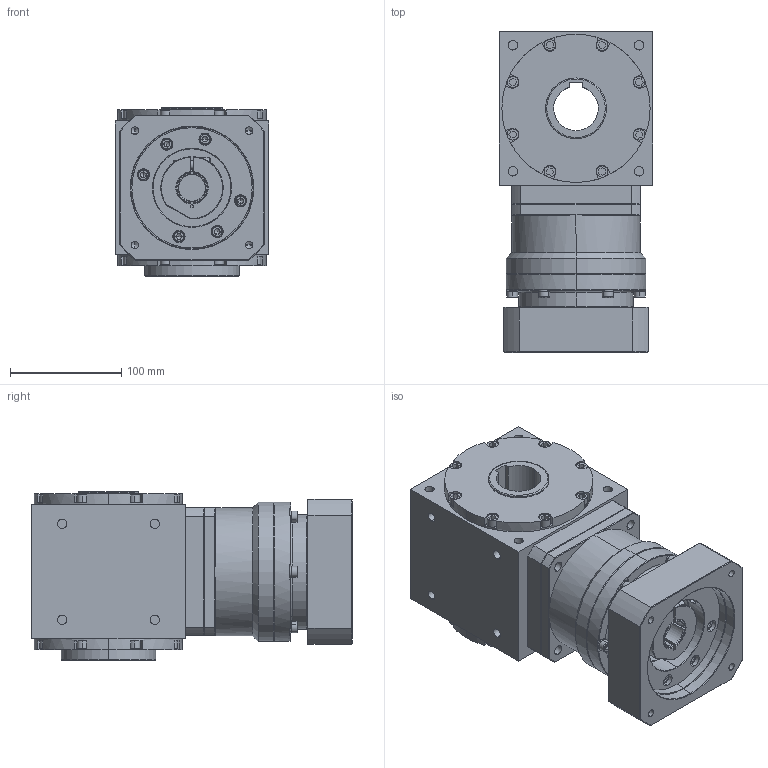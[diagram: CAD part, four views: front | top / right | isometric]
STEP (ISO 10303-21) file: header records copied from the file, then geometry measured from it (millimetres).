
FILE_DESCRIPTION (( 'STEP AP203' ), '1' );
FILE_NAME ('AAW135AS-L1-RFK 24-110-145-M8.STEP', '2024-12-14T08:37:25', ( '' ), ( '' ), 'SwSTEP 2.0', 'SolidWorks 2021', '' );
FILE_SCHEMA (( 'CONFIG_CONTROL_DESIGN' ));
Length unit declared in the file: millimetre
Products named in the file (3): AAW135AS-RFK; AAW135AS-L1-RFK 24-110-145-M8; VRB-115-L1-S2-P1 24-110-145-M8
Assembly tree (2 placements, depth 2):
  AAW135AS-L1-RFK 24-110-145-M8
    AAW135AS-RFK
    VRB-115-L1-S2-P1 24-110-145-M8
Bounding box: 138 x 288 x 151.5 mm (x, y, z)
Volume: 4133110.6 mm3; surface area: 366458.2 mm2
Topology: 33 solids, 33 shells, 1347 faces, 3247 edges, 2046 vertices
Faces by surface type: plane 637, cylinder 471, cone 201, torus 36, bspline 2
Entity records: 40516 total; most frequent: CARTESIAN_POINT 8219, DIRECTION 7082, ORIENTED_EDGE 6374, EDGE_CURVE 3187, AXIS2_PLACEMENT_3D 2714, VERTEX_POINT 2044, VECTOR 1654, LINE 1654
